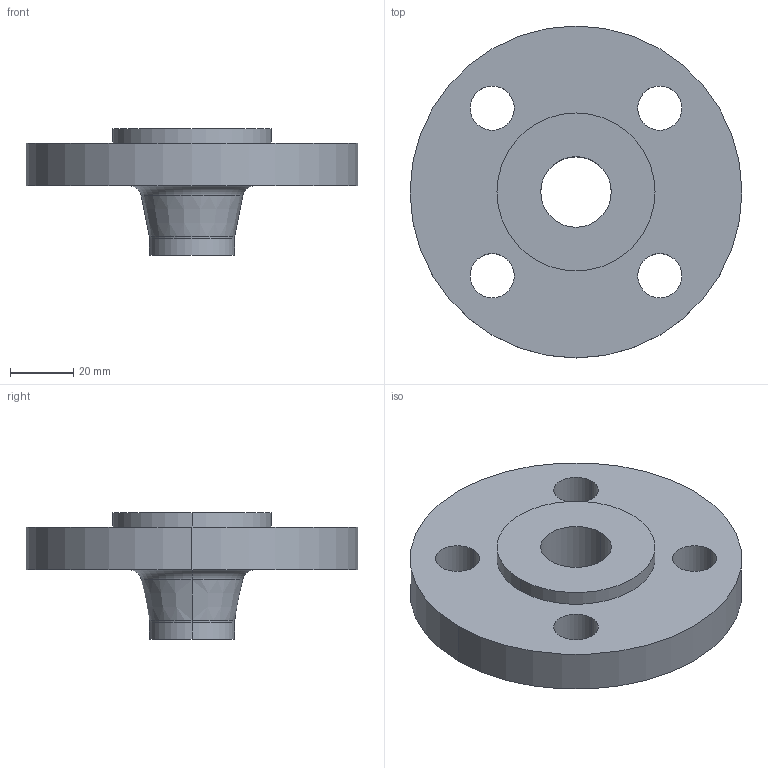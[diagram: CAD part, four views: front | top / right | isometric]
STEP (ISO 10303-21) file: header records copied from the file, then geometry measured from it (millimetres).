
FILE_DESCRIPTION (( 'STEP AP214' ), '1' );
FILE_NAME ('PN40 DN20 Type 11 - Type E Face.STEP', '2018-12-29T18:20:11', ( '' ), ( '' ), 'SwSTEP 2.0', 'SolidWorks 2019', '' );
FILE_SCHEMA (( 'AUTOMOTIVE_DESIGN' ));
Length unit declared in the file: millimetre
Products named in the file (1): PN40 DN20 Type 11 - Type E Face
Bounding box: 105 x 105 x 40 mm (x, y, z)
Volume: 116979.2 mm3; surface area: 27284.1 mm2
Topology: 1 solids, 1 shells, 26 faces, 60 edges, 38 vertices
Faces by surface type: cylinder 16, torus 4, plane 4, cone 2
Entity records: 812 total; most frequent: DIRECTION 156, CARTESIAN_POINT 125, ORIENTED_EDGE 120, AXIS2_PLACEMENT_3D 69, EDGE_CURVE 60, CIRCLE 42, EDGE_LOOP 38, VERTEX_POINT 38
